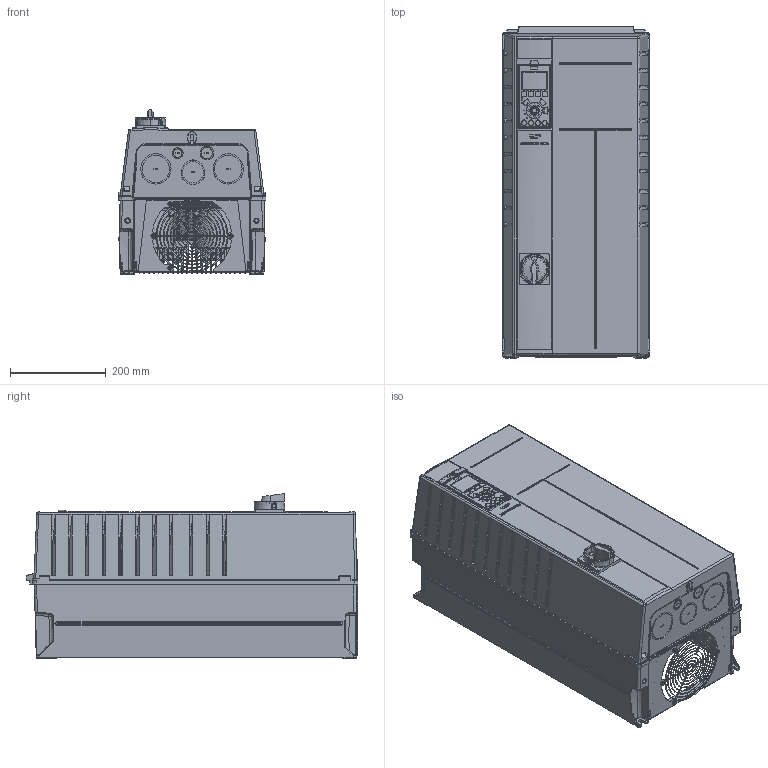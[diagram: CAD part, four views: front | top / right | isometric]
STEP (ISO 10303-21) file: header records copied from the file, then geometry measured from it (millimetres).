
FILE_DESCRIPTION((''),'2;1');
FILE_NAME('DANFOSS-FC300-C1-IP21-SWITCH','2011-10-13T',('cstephenkumar'),('Be-Atch INC. 1993'),'PRO/ENGINEER BY PARAMETRIC TECHNOLOGY CORPORATION, 2009360','PRO/ENGINEER BY PARAMETRIC TECHNOLOGY CORPORATION, 2009360','');
FILE_SCHEMA(('AUTOMOTIVE_DESIGN { 1 0 10303 214 1 1 1 1 }'));
Products named in the file (1): DANFOSS-FC300-C1-IP21-SWITCH
Bounding box: 308.54 x 692.9 x 343.53 mm (x, y, z)
Volume: 42180644.8 mm3; surface area: 3380355 mm2
Topology: 1 solids, 22 shells, 5322 faces, 13961 edges, 8627 vertices
Faces by surface type: plane 1900, cylinder 1553, bspline 1175, cone 382, torus 275, sphere 28, extrusion 9
Entity records: 218866 total; most frequent: CARTESIAN_POINT 96321, ORIENTED_EDGE 27778, DIRECTION 21682, EDGE_CURVE 13889, VERTEX_POINT 8625, AXIS2_PLACEMENT_3D 7486, VECTOR 6710, LINE 6701
